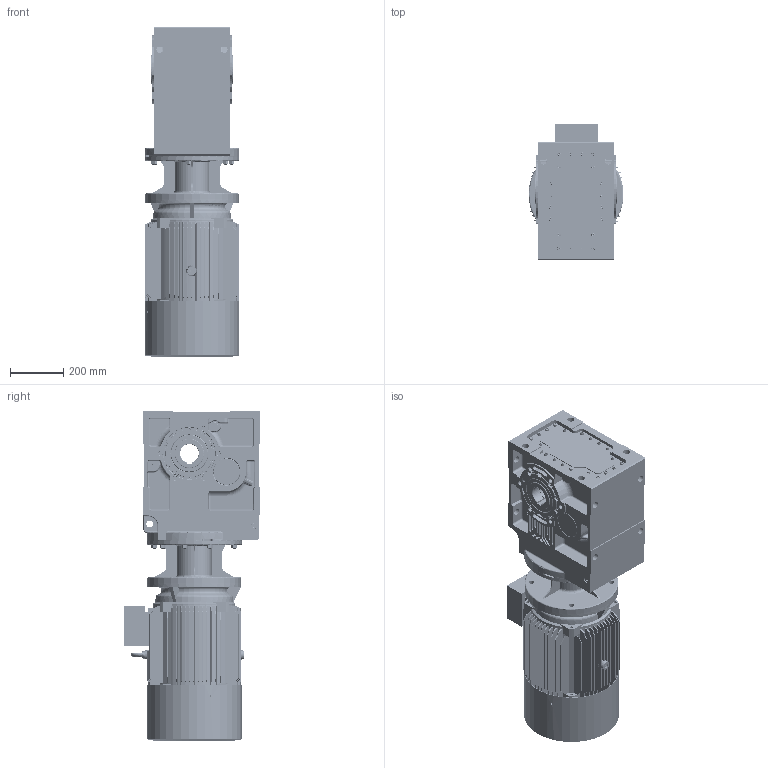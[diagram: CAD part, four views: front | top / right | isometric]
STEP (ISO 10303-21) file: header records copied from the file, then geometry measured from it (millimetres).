
FILE_DESCRIPTION (( 'STEP AP203' ), '1' );
FILE_NAME ('KV_673_0_M3-180M-4.STEP', '2019-07-18T11:01:56', ( '' ), ( '' ), 'SwSTEP 2.0', 'SolidWorks 2012', '' );
FILE_SCHEMA (( 'CONFIG_CONTROL_DESIGN' ));
Products named in the file (12): KV_673_0_M3-180M-4; M3-180M-FF-B5; Y2-180-4.6.8+ª-¯ª­-È®+_-++ñ; Y2-180MB5+À+¿_-++ñ; Eyebolts GB_GB_FASTENER_SCREWS_FRS M12_1; Y2-180C++A+¦-¯ª¦+¦_-++ñ; Y2-180-4.6.8-ª+---®+_-++ñ; Y2-180+¦i-_-++ñ; KN_67_3_0_A-B18_B5_ML60A_0_0_0_0_0_0_0_0_0_0_0_0_M1; 63180B5_Varsayìlan; K673_Varsayìlan; ML60A_Varsayìlan
Assembly tree (11 placements, depth 3):
  KV_673_0_M3-180M-4
    KN_67_3_0_A-B18_B5_ML60A_0_0_0_0_0_0_0_0_0_0_0_0_M1
      K673_Varsayìlan
      63180B5_Varsayìlan
      ML60A_Varsayìlan
    M3-180M-FF-B5
      Y2-180C++A+¦-¯ª¦+¦_-++ñ
      Y2-180+¦i-_-++ñ
      Y2-180-4.6.8-ª+---®+_-++ñ
      Eyebolts GB_GB_FASTENER_SCREWS_FRS M12_1
      Y2-180MB5+À+¿_-++ñ
      Y2-180-4.6.8+ª-¯ª­-È®+_-++ñ
Bounding box: 355 x 510.55 x 1237 mm (x, y, z)
Volume: 65447978.5 mm3; surface area: 5124461.1 mm2
Topology: 61 solids, 61 shells, 5992 faces, 14601 edges, 8864 vertices
Faces by surface type: cone 1992, cylinder 1834, plane 1646, torus 358, bspline 153, sphere 9
Entity records: 193123 total; most frequent: CARTESIAN_POINT 49252, DIRECTION 31754, ORIENTED_EDGE 28982, EDGE_CURVE 14491, AXIS2_PLACEMENT_3D 12528, VERTEX_POINT 8858, VECTOR 6698, LINE 6698
